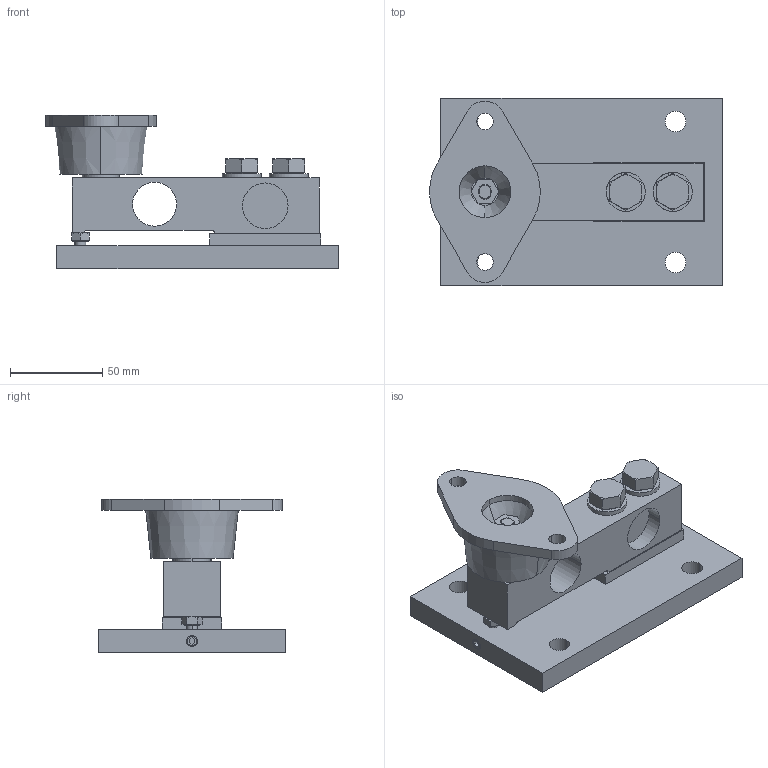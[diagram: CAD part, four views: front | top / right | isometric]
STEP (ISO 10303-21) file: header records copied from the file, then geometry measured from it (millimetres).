
FILE_DESCRIPTION((''),'2;1');
FILE_NAME('CAD3D_SWB220_0250LB','2017-05-31T',('li-383'),(''),'PRO/ENGINEER BY PARAMETRIC TECHNOLOGY CORPORATION, 2016240','PRO/ENGINEER BY PARAMETRIC TECHNOLOGY CORPORATION, 2016240','');
FILE_SCHEMA(('CONFIG_CONTROL_DESIGN'));
Length unit declared in the file: millimetre
Products named in the file (1): CAD3D_SWB220_0250LB
Bounding box: 158.57 x 101.6 x 83.3 mm (x, y, z)
Surface area: 80370.7 mm2 (no closed solid volume)
Topology: 0 solids, 19 shells, 187 faces, 504 edges, 342 vertices
Faces by surface type: plane 104, cylinder 51, cone 32
Entity records: 6105 total; most frequent: CARTESIAN_POINT 1316, DIRECTION 1011, ORIENTED_EDGE 912, EDGE_CURVE 504, AXIS2_PLACEMENT_3D 382, VERTEX_POINT 344, VECTOR 247, LINE 247
